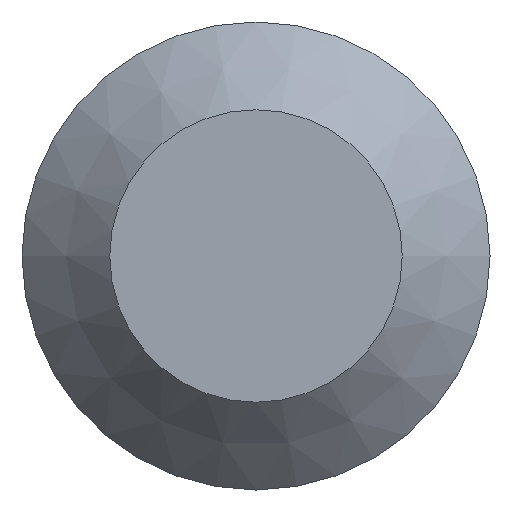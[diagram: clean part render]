
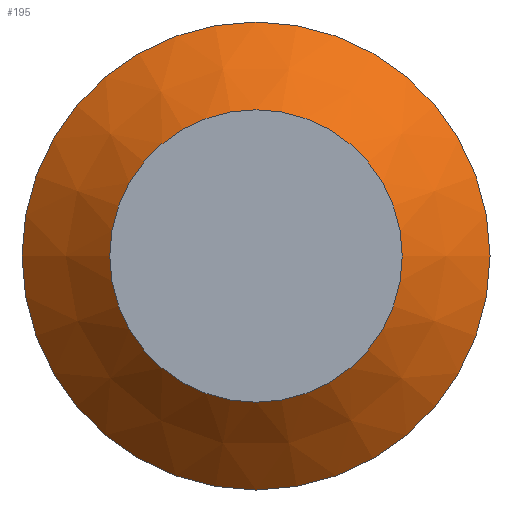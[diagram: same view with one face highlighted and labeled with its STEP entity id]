
A CAD part, front view. The second image highlights one B-rep face of the part: STEP entity #195.
In plain terms, the highlighted conical face has half-angle 45 degrees and reference radius 1.625 mm.
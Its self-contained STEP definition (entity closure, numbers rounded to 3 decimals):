
#32=FACE_OUTER_BOUND('',#44,.T.);
#44=EDGE_LOOP('',(#138,#139,#140,#141));
#57=LINE('',#298,#73);
#73=VECTOR('',#249,1.625);
#89=CIRCLE('',#228,1.25);
#90=CIRCLE('',#229,2.);
#93=VERTEX_POINT('',#295);
#94=VERTEX_POINT('',#297);
#111=EDGE_CURVE('',#93,#93,#89,.T.);
#112=EDGE_CURVE('',#93,#94,#57,.T.);
#113=EDGE_CURVE('',#94,#94,#90,.T.);
#138=ORIENTED_EDGE('',*,*,#111,.T.);
#139=ORIENTED_EDGE('',*,*,#112,.T.);
#140=ORIENTED_EDGE('',*,*,#113,.T.);
#141=ORIENTED_EDGE('',*,*,#112,.F.);
#192=CONICAL_SURFACE('',#227,1.625,0.785);
#195=ADVANCED_FACE('',(#32),#192,.T.);
#227=AXIS2_PLACEMENT_3D('',#294,#245,#246);
#228=AXIS2_PLACEMENT_3D('',#296,#247,#248);
#229=AXIS2_PLACEMENT_3D('',#299,#250,#251);
#245=DIRECTION('center_axis',(0.,1.,0.));
#246=DIRECTION('ref_axis',(1.,0.,0.));
#247=DIRECTION('center_axis',(0.,1.,0.));
#248=DIRECTION('ref_axis',(1.,0.,0.));
#249=DIRECTION('',(-0.707,0.707,0.));
#250=DIRECTION('center_axis',(0.,-1.,0.));
#251=DIRECTION('ref_axis',(1.,0.,0.));
#294=CARTESIAN_POINT('Origin',(0.,0.375,0.));
#295=CARTESIAN_POINT('',(-1.25,0.,0.));
#296=CARTESIAN_POINT('Origin',(0.,0.,0.));
#297=CARTESIAN_POINT('',(-2.,0.75,0.));
#298=CARTESIAN_POINT('',(-1.625,0.375,0.));
#299=CARTESIAN_POINT('Origin',(0.,0.75,0.));
